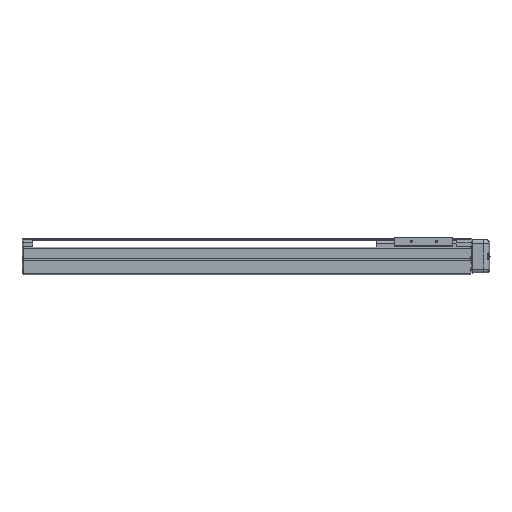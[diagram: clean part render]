
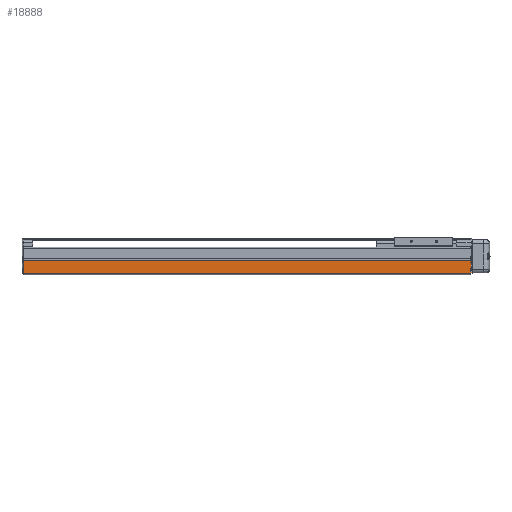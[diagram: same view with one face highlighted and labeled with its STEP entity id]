
A CAD part, top view. The second image highlights one B-rep face of the part: STEP entity #18888.
In plain terms, the highlighted planar face has unit normal (0, 0, 1).
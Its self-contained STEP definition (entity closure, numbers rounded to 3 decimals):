
#3044=DIRECTION('',(-1.,0.,0.));
#3045=VECTOR('',#3044,891.);
#3046=CARTESIAN_POINT('',(891.,28.9,39.));
#3047=LINE('',#3046,#3045);
#3056=DIRECTION('',(0.,1.,0.));
#3057=VECTOR('',#3056,3.9);
#3058=CARTESIAN_POINT('',(891.,25.,39.));
#3059=LINE('',#3058,#3057);
#3060=DIRECTION('',(0.,1.,0.));
#3061=VECTOR('',#3060,9.5);
#3062=CARTESIAN_POINT('',(891.,4.5,39.));
#3063=LINE('',#3062,#3061);
#3064=DIRECTION('',(0.,-1.,0.));
#3065=VECTOR('',#3064,24.4);
#3066=CARTESIAN_POINT('',(0.,28.9,39.));
#3067=LINE('',#3066,#3065);
#3077=DIRECTION('',(-1.,0.,0.));
#3078=VECTOR('',#3077,0.7);
#3079=CARTESIAN_POINT('',(891.7,25.,39.));
#3080=LINE('',#3079,#3078);
#10841=DIRECTION('',(0.,1.,0.));
#10842=VECTOR('',#10841,11.);
#10843=CARTESIAN_POINT('',(891.7,14.,39.));
#10844=LINE('',#10843,#10842);
#10942=DIRECTION('',(1.,0.,0.));
#10943=VECTOR('',#10942,0.7);
#10944=CARTESIAN_POINT('',(891.,14.,39.));
#10945=LINE('',#10944,#10943);
#10980=DIRECTION('',(1.,0.,0.));
#10981=VECTOR('',#10980,891.);
#10982=CARTESIAN_POINT('',(0.,4.5,39.));
#10983=LINE('',#10982,#10981);
#13530=CARTESIAN_POINT('',(891.7,14.,39.));
#13531=CARTESIAN_POINT('',(891.7,25.,39.));
#13532=VERTEX_POINT('',#13530);
#13533=VERTEX_POINT('',#13531);
#13801=CARTESIAN_POINT('',(0.,4.5,39.));
#13802=VERTEX_POINT('',#13801);
#13803=CARTESIAN_POINT('',(0.,28.9,39.));
#13804=VERTEX_POINT('',#13803);
#13917=CARTESIAN_POINT('',(891.,28.9,39.));
#13918=VERTEX_POINT('',#13917);
#13920=CARTESIAN_POINT('',(891.,4.5,39.));
#13922=VERTEX_POINT('',#13920);
#14894=CARTESIAN_POINT('',(891.,14.,39.));
#14895=VERTEX_POINT('',#14894);
#14896=CARTESIAN_POINT('',(891.,25.,39.));
#14898=VERTEX_POINT('',#14896);
#18869=CARTESIAN_POINT('',(445.5,16.7,39.));
#18870=DIRECTION('',(0.,0.,1.));
#18871=DIRECTION('',(0.,-1.,0.));
#18872=AXIS2_PLACEMENT_3D('',#18869,#18870,#18871);
#18873=PLANE('',#18872);
#18874=ORIENTED_EDGE('',*,*,#16863,.F.);
#18876=ORIENTED_EDGE('',*,*,#18875,.F.);
#18878=ORIENTED_EDGE('',*,*,#18877,.F.);
#18880=ORIENTED_EDGE('',*,*,#18879,.F.);
#18881=ORIENTED_EDGE('',*,*,#17011,.F.);
#18883=ORIENTED_EDGE('',*,*,#18882,.F.);
#18884=ORIENTED_EDGE('',*,*,#18173,.F.);
#18885=ORIENTED_EDGE('',*,*,#18862,.F.);
#18886=EDGE_LOOP('',(#18874,#18876,#18878,#18880,#18881,#18883,#18884,#18885));
#18887=FACE_OUTER_BOUND('',#18886,.F.);
#18888=ADVANCED_FACE('',(#18887),#18873,.T.);
#16863=EDGE_CURVE('',#14898,#13918,#3059,.T.);
#17011=EDGE_CURVE('',#13922,#14895,#3063,.T.);
#18173=EDGE_CURVE('',#13804,#13802,#3067,.T.);
#18862=EDGE_CURVE('',#13918,#13804,#3047,.T.);
#18875=EDGE_CURVE('',#13533,#14898,#3080,.T.);
#18877=EDGE_CURVE('',#13532,#13533,#10844,.T.);
#18879=EDGE_CURVE('',#14895,#13532,#10945,.T.);
#18882=EDGE_CURVE('',#13802,#13922,#10983,.T.);
